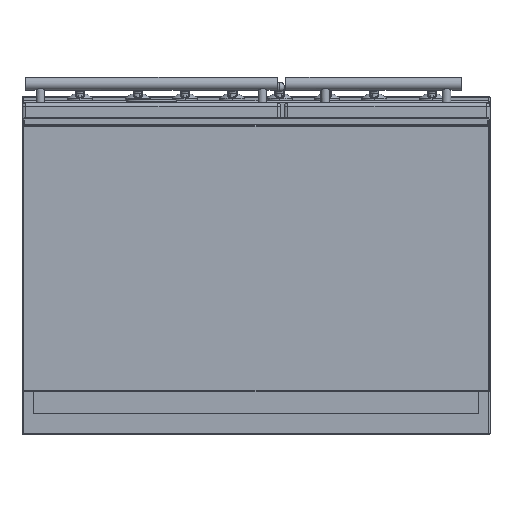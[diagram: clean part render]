
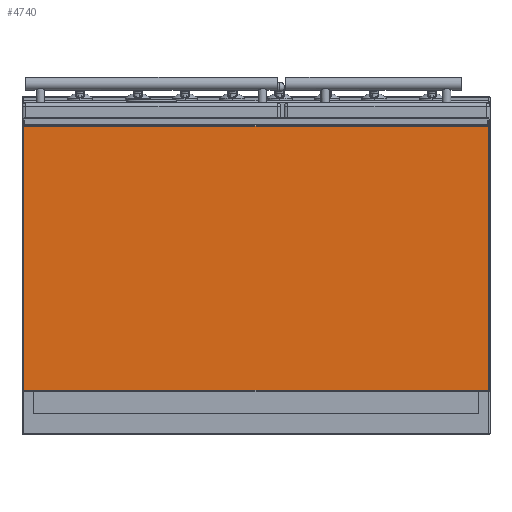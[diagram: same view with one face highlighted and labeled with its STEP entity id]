
A CAD part, front view. The second image highlights one B-rep face of the part: STEP entity #4740.
In plain terms, the highlighted planar face has unit normal (0, -1, 0).
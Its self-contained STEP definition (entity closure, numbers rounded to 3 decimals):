
#4383=DIRECTION('',(0.,0.,-1.));
#4384=VECTOR('',#4383,508.);
#4385=CARTESIAN_POINT('',(447.,0.,254.));
#4386=LINE('',#4385,#4384);
#4387=DIRECTION('',(-1.,0.,0.));
#4388=VECTOR('',#4387,894.);
#4389=CARTESIAN_POINT('',(447.,0.,-254.));
#4390=LINE('',#4389,#4388);
#4391=DIRECTION('',(0.,0.,1.));
#4392=VECTOR('',#4391,508.);
#4393=CARTESIAN_POINT('',(-447.,0.,-254.));
#4394=LINE('',#4393,#4392);
#4395=DIRECTION('',(-1.,0.,0.));
#4396=VECTOR('',#4395,894.);
#4397=CARTESIAN_POINT('',(447.,0.,254.));
#4398=LINE('',#4397,#4396);
#4535=CARTESIAN_POINT('',(447.,0.,254.));
#4536=CARTESIAN_POINT('',(447.,0.,-254.));
#4537=VERTEX_POINT('',#4535);
#4538=VERTEX_POINT('',#4536);
#4541=CARTESIAN_POINT('',(-447.,0.,254.));
#4542=VERTEX_POINT('',#4541);
#4549=CARTESIAN_POINT('',(-447.,0.,-254.));
#4550=VERTEX_POINT('',#4549);
#4726=CARTESIAN_POINT('',(-449.,0.,256.));
#4727=DIRECTION('',(0.,-1.,0.));
#4728=DIRECTION('',(0.,0.,-1.));
#4729=AXIS2_PLACEMENT_3D('',#4726,#4727,#4728);
#4730=PLANE('',#4729);
#4731=ORIENTED_EDGE('',*,*,#4716,.T.);
#4733=ORIENTED_EDGE('',*,*,#4732,.T.);
#4735=ORIENTED_EDGE('',*,*,#4734,.T.);
#4737=ORIENTED_EDGE('',*,*,#4736,.F.);
#4738=EDGE_LOOP('',(#4731,#4733,#4735,#4737));
#4739=FACE_OUTER_BOUND('',#4738,.F.);
#4716=EDGE_CURVE('',#4537,#4538,#4386,.T.);
#4732=EDGE_CURVE('',#4538,#4550,#4390,.T.);
#4734=EDGE_CURVE('',#4550,#4542,#4394,.T.);
#4736=EDGE_CURVE('',#4537,#4542,#4398,.T.);
#4740=ADVANCED_FACE('',(#4739),#4730,.T.);
